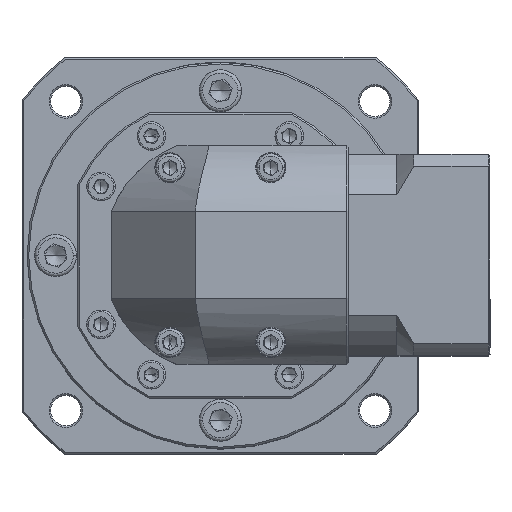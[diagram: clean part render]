
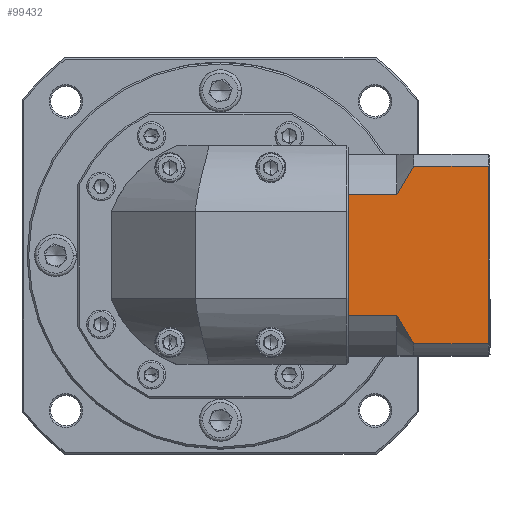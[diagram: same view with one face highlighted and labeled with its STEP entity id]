
A CAD part, top view. The second image highlights one B-rep face of the part: STEP entity #99432.
In plain terms, the highlighted planar face has unit normal (0, 0, 1).
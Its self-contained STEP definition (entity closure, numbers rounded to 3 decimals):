
#2291 = EDGE_CURVE ( 'NONE', #51565, #3916, #59553, .T. ) ;
#3037 = CARTESIAN_POINT ( 'NONE',  ( 114.294, 124.532, 43.543 ) ) ;
#3544 = CARTESIAN_POINT ( 'NONE',  ( 128.794, 89.468, 43.543 ) ) ;
#3916 = VERTEX_POINT ( 'NONE', #44505 ) ;
#6133 = LINE ( 'NONE', #7103, #112882 ) ;
#6917 = FACE_OUTER_BOUND ( 'NONE', #7456, .T. ) ;
#7103 = CARTESIAN_POINT ( 'NONE',  ( 155.994, 137.495, 43.543 ) ) ;
#7456 = EDGE_LOOP ( 'NONE', ( #68836, #34928, #76008, #12924, #21145, #35426, #44507, #85754, #55119, #104257 ) ) ;
#9790 = VERTEX_POINT ( 'NONE', #70445 ) ;
#12669 = CARTESIAN_POINT ( 'NONE',  ( 114.294, 137.495, 43.543 ) ) ;
#12924 = ORIENTED_EDGE ( 'NONE', *, *, #135209, .T. ) ;
#13250 = VECTOR ( 'NONE', #78996, 1000. ) ;
#15422 = CARTESIAN_POINT ( 'NONE',  ( 128.794, 133.953, 43.543 ) ) ;
#16742 = VECTOR ( 'NONE', #17959, 1000. ) ;
#17959 = DIRECTION ( 'NONE',  ( 0., -1., 0. ) ) ;
#17974 = VERTEX_POINT ( 'NONE', #126611 ) ;
#18634 = VECTOR ( 'NONE', #37316, 1000. ) ;
#19406 = DIRECTION ( 'NONE',  ( -1., 0., 0. ) ) ;
#21145 = ORIENTED_EDGE ( 'NONE', *, *, #110910, .F. ) ;
#21946 = CARTESIAN_POINT ( 'NONE',  ( 128.794, 89.468, 43.543 ) ) ;
#23690 = EDGE_CURVE ( 'NONE', #37415, #17974, #44051, .T. ) ;
#24429 = EDGE_CURVE ( 'NONE', #93841, #100395, #50667, .T. ) ;
#29487 = CARTESIAN_POINT ( 'NONE',  ( 130.345, 128.407, 43.543 ) ) ;
#29876 = CARTESIAN_POINT ( 'NONE',  ( 128.794, 81.038, 43.543 ) ) ;
#34928 = ORIENTED_EDGE ( 'NONE', *, *, #107214, .T. ) ;
#35426 = ORIENTED_EDGE ( 'NONE', *, *, #81964, .T. ) ;
#36082 = CARTESIAN_POINT ( 'NONE',  ( 130.345, 86.586, 43.543 ) ) ;
#37316 = DIRECTION ( 'NONE',  ( 1., 0., 0. ) ) ;
#37415 = VERTEX_POINT ( 'NONE', #3037 ) ;
#37512 = CARTESIAN_POINT ( 'NONE',  ( 132.019, 83.78, 43.543 ) ) ;
#40010 = CARTESIAN_POINT ( 'NONE',  ( 156.494, 137.495, 43.543 ) ) ;
#44051 = LINE ( 'NONE', #82979, #16742 ) ;
#44505 = CARTESIAN_POINT ( 'NONE',  ( 155.994, 133.953, 43.543 ) ) ;
#44507 = ORIENTED_EDGE ( 'NONE', *, *, #23690, .T. ) ;
#50667 = LINE ( 'NONE', #3544, #13250 ) ;
#51565 = VERTEX_POINT ( 'NONE', #59864 ) ;
#54681 = CARTESIAN_POINT ( 'NONE',  ( 114.294, 89.468, 43.543 ) ) ;
#54785 = CARTESIAN_POINT ( 'NONE',  ( 128.794, 125.523, 43.543 ) ) ;
#55119 = ORIENTED_EDGE ( 'NONE', *, *, #24429, .F. ) ;
#57556 = CARTESIAN_POINT ( 'NONE',  ( 132.893, 82.401, 43.543 ) ) ;
#59553 = LINE ( 'NONE', #15422, #18634 ) ;
#59864 = CARTESIAN_POINT ( 'NONE',  ( 133.794, 133.953, 43.543 ) ) ;
#61486 = VECTOR ( 'NONE', #19406, 1000. ) ;
#61792 = DIRECTION ( 'NONE',  ( 0., 1., 0. ) ) ;
#62809 = DIRECTION ( 'NONE',  ( 0., 0., -1. ) ) ;
#62832 = CARTESIAN_POINT ( 'NONE',  ( 132.021, 131.214, 43.543 ) ) ;
#63763 = CARTESIAN_POINT ( 'NONE',  ( 114.294, 137.495, 43.543 ) ) ;
#67021 = LINE ( 'NONE', #12669, #109147 ) ;
#68836 = ORIENTED_EDGE ( 'NONE', *, *, #80530, .F. ) ;
#70445 = CARTESIAN_POINT ( 'NONE',  ( 128.794, 125.523, 43.543 ) ) ;
#75748 = CARTESIAN_POINT ( 'NONE',  ( 155.994, 81.038, 43.543 ) ) ;
#76008 = ORIENTED_EDGE ( 'NONE', *, *, #2291, .F. ) ;
#78996 = DIRECTION ( 'NONE',  ( -1., 0., 0. ) ) ;
#80530 = EDGE_CURVE ( 'NONE', #114363, #118003, #128837, .T. ) ;
#81964 = EDGE_CURVE ( 'NONE', #129450, #37415, #112962, .T. ) ;
#82239 = EDGE_CURVE ( 'NONE', #93841, #118003, #110797, .T. ) ;
#82979 = CARTESIAN_POINT ( 'NONE',  ( 114.294, 137.495, 43.543 ) ) ;
#83565 = PLANE ( 'NONE',  #120779 ) ;
#85754 = ORIENTED_EDGE ( 'NONE', *, *, #126383, .T. ) ;
#88518 = DIRECTION ( 'NONE',  ( 0., -1., 0. ) ) ;
#90635 = CARTESIAN_POINT ( 'NONE',  ( 128.794, 125.523, 43.543 ) ) ;
#91086 = DIRECTION ( 'NONE',  ( 1., 0., 0. ) ) ;
#93841 = VERTEX_POINT ( 'NONE', #21946 ) ;
#94067 = VECTOR ( 'NONE', #91086, 1000. ) ;
#97691 = CARTESIAN_POINT ( 'NONE',  ( 133.794, 133.953, 43.543 ) ) ;
#99432 = ADVANCED_FACE ( 'NONE', ( #6917 ), #83565, .F. ) ;
#100395 = VERTEX_POINT ( 'NONE', #54681 ) ;
#101829 = CARTESIAN_POINT ( 'NONE',  ( 133.794, 81.038, 43.543 ) ) ;
#104257 = ORIENTED_EDGE ( 'NONE', *, *, #82239, .T. ) ;
#107214 = EDGE_CURVE ( 'NONE', #114363, #3916, #6133, .T. ) ;
#109147 = VECTOR ( 'NONE', #88518, 1000. ) ;
#110797 = B_SPLINE_CURVE_WITH_KNOTS ( 'NONE', 3,
 ( #112174, #133318, #36082, #37512, #57556, #101829 ),
 .UNSPECIFIED., .F., .F.,
 ( 4, 2, 4 ),
 ( 0.1, 0.104, 0.109 ),
 .UNSPECIFIED. ) ;
#110910 = EDGE_CURVE ( 'NONE', #129450, #9790, #120925, .T. ) ;
#112174 = CARTESIAN_POINT ( 'NONE',  ( 128.794, 89.468, 43.543 ) ) ;
#112882 = VECTOR ( 'NONE', #61792, 1000. ) ;
#112962 = LINE ( 'NONE', #63763, #116339 ) ;
#114363 = VERTEX_POINT ( 'NONE', #75748 ) ;
#116339 = VECTOR ( 'NONE', #129140, 1000. ) ;
#116505 = DIRECTION ( 'NONE',  ( 1., 0., 0. ) ) ;
#116981 = CARTESIAN_POINT ( 'NONE',  ( 129.542, 126.975, 43.543 ) ) ;
#118003 = VERTEX_POINT ( 'NONE', #132451 ) ;
#120779 = AXIS2_PLACEMENT_3D ( 'NONE', #40010, #62809, #116505 ) ;
#120925 = LINE ( 'NONE', #90635, #94067 ) ;
#121176 = CARTESIAN_POINT ( 'NONE',  ( 114.294, 125.523, 43.543 ) ) ;
#121246 = B_SPLINE_CURVE_WITH_KNOTS ( 'NONE', 3,
 ( #97691, #127300, #62832, #29487, #116981, #54785 ),
 .UNSPECIFIED., .F., .F.,
 ( 4, 2, 4 ),
 ( 0.052, 0.057, 0.062 ),
 .UNSPECIFIED. ) ;
#126383 = EDGE_CURVE ( 'NONE', #17974, #100395, #67021, .T. ) ;
#126611 = CARTESIAN_POINT ( 'NONE',  ( 114.294, 90.459, 43.543 ) ) ;
#127300 = CARTESIAN_POINT ( 'NONE',  ( 132.894, 132.593, 43.543 ) ) ;
#128837 = LINE ( 'NONE', #29876, #61486 ) ;
#129140 = DIRECTION ( 'NONE',  ( 0., -1., 0. ) ) ;
#129450 = VERTEX_POINT ( 'NONE', #121176 ) ;
#132451 = CARTESIAN_POINT ( 'NONE',  ( 133.794, 81.038, 43.543 ) ) ;
#133318 = CARTESIAN_POINT ( 'NONE',  ( 129.544, 88.011, 43.543 ) ) ;
#135209 = EDGE_CURVE ( 'NONE', #51565, #9790, #121246, .T. ) ;
